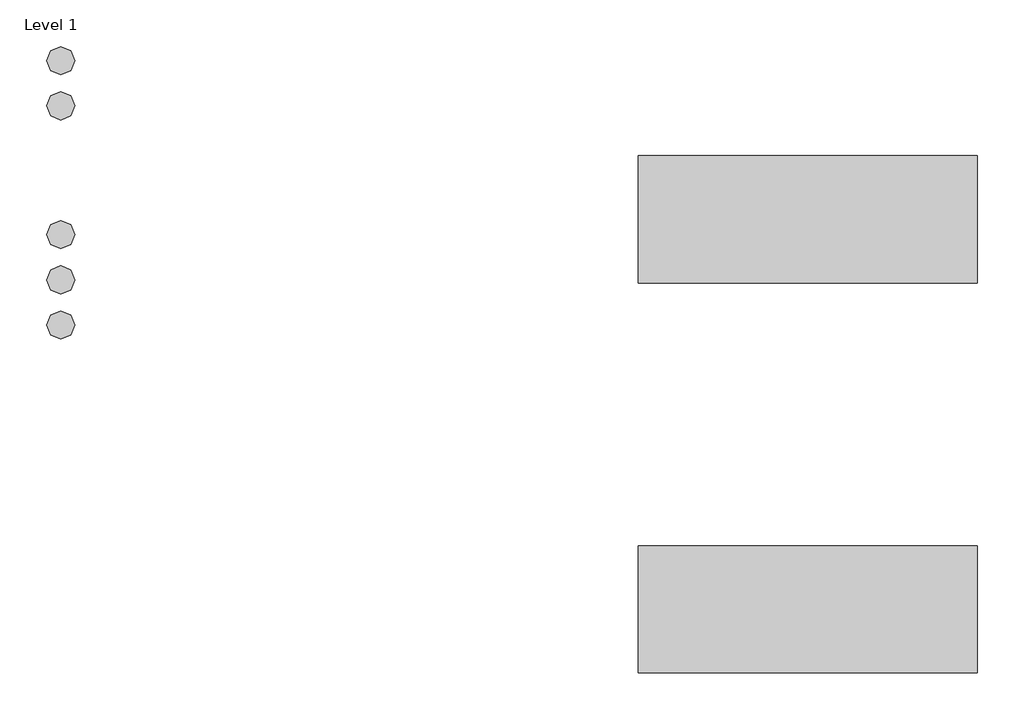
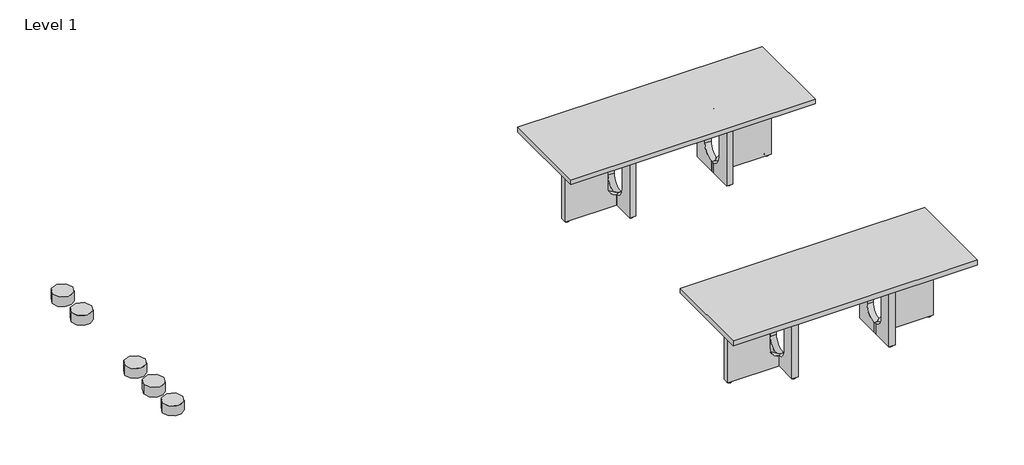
# One storey: 5 proxies, 2 furniture elements.
"""IFC4 building model written with IfcOpenShell, lengths in millimetres."""

from ifc_helpers import new_model, si_unit, origin, place, context, project, spatial, transform, mapped, element, save
from components import materialmodel_materialmodel_02e69005, furniture_bf1a82d5

model = new_model("IFC4")

# Units and contexts
model_context = context("Model", 3, world=origin())
ifc_project = project(units=[si_unit("LENGTHUNIT", "METRE", prefix="MILLI")], contexts=[model_context])

# Site, building, storey
site = spatial("IfcSite", under=ifc_project)
building = spatial("IfcBuilding", under=site)
storey = spatial("IfcBuildingStorey", under=building, Name="Level 1", Elevation=0.0)

# Proxies
placement = place(None, origin())
materialmodel_materialmodel_shape = materialmodel_materialmodel_02e69005(model_context)
element("IfcBuildingElementProxy", 1, Name="MaterialModel : MaterialModel", ObjectType="MaterialModel : MaterialModel", at=placement, inside=storey, context=model_context, shape_type="MappedRepresentation", body=[
    mapped(materialmodel_materialmodel_shape, transform((-5352.1657896, 3598.9692255, 0.0), x_axis=(1.0, 0.0, 0.0), y_axis=(0.0, 1.0, 0.0), z_axis=(0.0, 0.0, 1.0))),
])
element("IfcBuildingElementProxy", 2, Name="MaterialModel : MaterialModel", ObjectType="MaterialModel : MaterialModel", at=placement, inside=storey, context=model_context, shape_type="MappedRepresentation", body=[
    mapped(materialmodel_materialmodel_shape, transform((-5352.1657896, 3438.9692255, 0.0), x_axis=(1.0, 0.0, 0.0), y_axis=(0.0, 1.0, 0.0), z_axis=(0.0, 0.0, 1.0))),
])
element("IfcBuildingElementProxy", 3, Name="MaterialModel : MaterialModel", ObjectType="MaterialModel : MaterialModel", at=placement, inside=storey, context=model_context, shape_type="MappedRepresentation", body=[
    mapped(materialmodel_materialmodel_shape, transform((-5352.1657896, 3278.9692255, 0.0), x_axis=(1.0, 0.0, 0.0), y_axis=(0.0, 1.0, 0.0), z_axis=(0.0, 0.0, 1.0))),
])
element("IfcBuildingElementProxy", 4, Name="MaterialModel : MaterialModel", ObjectType="MaterialModel : MaterialModel", at=placement, inside=storey, context=model_context, shape_type="MappedRepresentation", body=[
    mapped(materialmodel_materialmodel_shape, transform((-5352.1657896, 4214.5048486, 0.0), x_axis=(1.0, 0.0, 0.0), y_axis=(0.0, 1.0, 0.0), z_axis=(0.0, 0.0, 1.0))),
])
element("IfcBuildingElementProxy", 5, Name="MaterialModel : MaterialModel", ObjectType="MaterialModel : MaterialModel", at=placement, inside=storey, context=model_context, shape_type="MappedRepresentation", body=[
    mapped(materialmodel_materialmodel_shape, transform((-5352.1657896, 4054.5048486, 0.0), x_axis=(1.0, 0.0, 0.0), y_axis=(0.0, 1.0, 0.0), z_axis=(0.0, 0.0, 1.0))),
])

# Furniture
furniture_shape = furniture_bf1a82d5(model_context)
element("IfcFurniture", 6, ObjectType="Audo Copenhagen - Androgyne - Lounge Table Wood : Audo Copenhagen - Androgyne - Lounge Table Wood", at=placement, inside=storey, context=model_context, shape_type="MappedRepresentation", body=[
    mapped(furniture_shape, transform((-2710.7585, 3652.8065798, 0.0), x_axis=(1.0, 0.0, 0.0), y_axis=(0.0, 1.0, 0.0), z_axis=(0.0, 0.0, 1.0))),
])
element("IfcFurniture", 7, ObjectType="Audo Copenhagen - Androgyne - Lounge Table Stone : Audo Copenhagen - Androgyne - Lounge Table Stone", at=placement, inside=storey, context=model_context, shape_type="MappedRepresentation", body=[
    mapped(furniture_shape, transform((-2710.7585, 2272.8065798, 0.0), x_axis=(1.0, 0.0, 0.0), y_axis=(0.0, 1.0, 0.0), z_axis=(0.0, 0.0, 1.0))),
])

save(model, "model.ifc")
